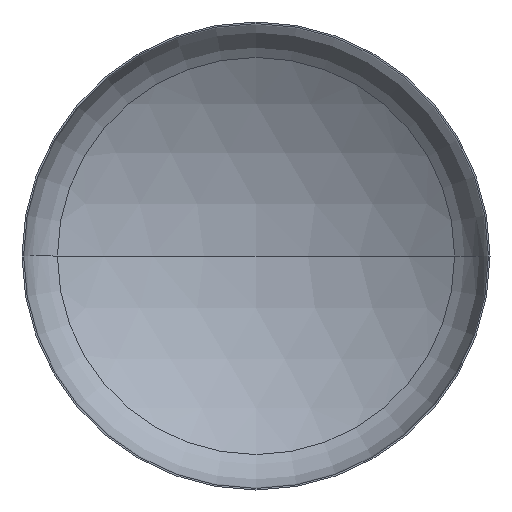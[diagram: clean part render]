
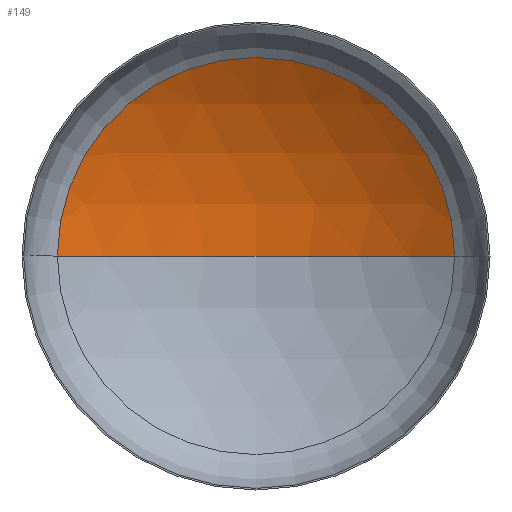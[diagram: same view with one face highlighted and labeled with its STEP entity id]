
A CAD part, front view. The second image highlights one B-rep face of the part: STEP entity #149.
In plain terms, the highlighted spherical face has radius 6400 mm.
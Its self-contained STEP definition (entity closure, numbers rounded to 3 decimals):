
#40 = ORIENTED_EDGE ( 'NONE', *, *, #266, .F. ) ;
#58 = VERTEX_POINT ( 'NONE', #225 ) ;
#83 = EDGE_LOOP ( 'NONE', ( #40, #391, #107 ) ) ;
#100 = VERTEX_POINT ( 'NONE', #215 ) ;
#103 = DIRECTION ( 'NONE',  ( 1., 0., 0. ) ) ;
#107 = ORIENTED_EDGE ( 'NONE', *, *, #259, .T. ) ;
#131 = VERTEX_POINT ( 'NONE', #335 ) ;
#143 = AXIS2_PLACEMENT_3D ( 'NONE', #270, #218, #217 ) ;
#149 = ADVANCED_FACE ( 'NONE', ( #319 ), #386, .F. ) ;
#151 = AXIS2_PLACEMENT_3D ( 'NONE', #174, #192, #190 ) ;
#157 = AXIS2_PLACEMENT_3D ( 'NONE', #397, #255, #103 ) ;
#174 = CARTESIAN_POINT ( 'NONE',  ( 0., -4297.96, 0. ) ) ;
#190 = DIRECTION ( 'NONE',  ( -1., 0., 0. ) ) ;
#192 = DIRECTION ( 'NONE',  ( 0., 0., -1. ) ) ;
#215 = CARTESIAN_POINT ( 'NONE',  ( 0., 2102.04, 0. ) ) ;
#217 = DIRECTION ( 'NONE',  ( 1., 0., 0. ) ) ;
#218 = DIRECTION ( 'NONE',  ( 0., 0., 1. ) ) ;
#219 = AXIS2_PLACEMENT_3D ( 'NONE', #332, #327, #324 ) ;
#225 = CARTESIAN_POINT ( 'NONE',  ( 3394.352, 1127.754, 0. ) ) ;
#228 = CIRCLE ( 'NONE', #143, 6400. ) ;
#235 = CIRCLE ( 'NONE', #151, 6400. ) ;
#255 = DIRECTION ( 'NONE',  ( 0., -1., 0. ) ) ;
#259 = EDGE_CURVE ( 'NONE', #58, #131, #302, .T. ) ;
#262 = EDGE_CURVE ( 'NONE', #100, #58, #235, .T. ) ;
#266 = EDGE_CURVE ( 'NONE', #100, #131, #228, .T. ) ;
#270 = CARTESIAN_POINT ( 'NONE',  ( 0., -4297.96, 0. ) ) ;
#302 = CIRCLE ( 'NONE', #157, 3394.352 ) ;
#319 = FACE_OUTER_BOUND ( 'NONE', #83, .T. ) ;
#324 = DIRECTION ( 'NONE',  ( -1., 0., 0. ) ) ;
#327 = DIRECTION ( 'NONE',  ( 0., 0., -1. ) ) ;
#332 = CARTESIAN_POINT ( 'NONE',  ( 0., -4297.96, 0. ) ) ;
#335 = CARTESIAN_POINT ( 'NONE',  ( -3394.352, 1127.754, 0. ) ) ;
#386 = SPHERICAL_SURFACE ( 'NONE', #219, 6400. ) ;
#391 = ORIENTED_EDGE ( 'NONE', *, *, #262, .T. ) ;
#397 = CARTESIAN_POINT ( 'NONE',  ( 0., 1127.754, 0. ) ) ;
